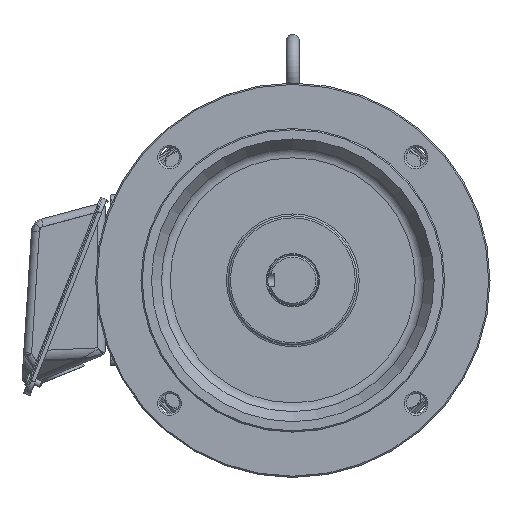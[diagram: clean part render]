
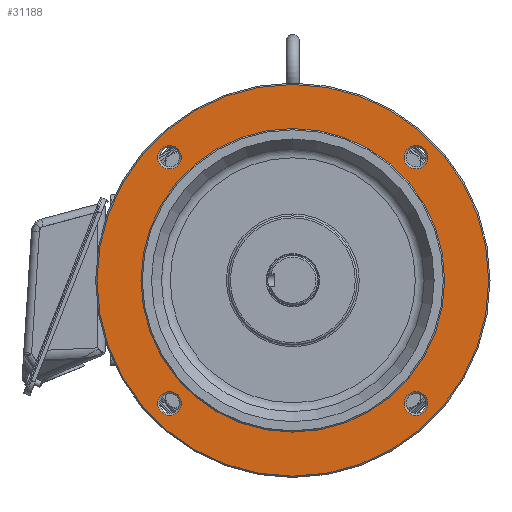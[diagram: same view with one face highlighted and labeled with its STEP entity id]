
A CAD part, front view. The second image highlights one B-rep face of the part: STEP entity #31188.
In plain terms, the highlighted planar face has unit normal (0, -1, 0).
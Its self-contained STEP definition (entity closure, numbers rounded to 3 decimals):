
#7719=ORIENTED_EDGE('',*,*,#14572,.T.);
#7720=ORIENTED_EDGE('',*,*,#14573,.T.);
#7721=ORIENTED_EDGE('',*,*,#14574,.T.);
#7722=ORIENTED_EDGE('',*,*,#14575,.T.);
#7723=ORIENTED_EDGE('',*,*,#14576,.T.);
#7724=ORIENTED_EDGE('',*,*,#14351,.F.);
#14351=EDGE_CURVE('',#18023,#18023,#20270,.T.);
#14572=EDGE_CURVE('',#18185,#18185,#20387,.F.);
#14573=EDGE_CURVE('',#18186,#18186,#20388,.T.);
#14574=EDGE_CURVE('',#18187,#18187,#20389,.T.);
#14575=EDGE_CURVE('',#18188,#18188,#20390,.T.);
#14576=EDGE_CURVE('',#18189,#18189,#20391,.T.);
#18023=VERTEX_POINT('',#51380);
#18185=VERTEX_POINT('',#52483);
#18186=VERTEX_POINT('',#52485);
#18187=VERTEX_POINT('',#52487);
#18188=VERTEX_POINT('',#52489);
#18189=VERTEX_POINT('',#52491);
#20270=CIRCLE('',#33341,115.5);
#20387=CIRCLE('',#33504,149.);
#20388=CIRCLE('',#33505,9.);
#20389=CIRCLE('',#33506,9.);
#20390=CIRCLE('',#33507,9.);
#20391=CIRCLE('',#33508,9.);
#22048=EDGE_LOOP('',(#7719));
#22049=EDGE_LOOP('',(#7720));
#22050=EDGE_LOOP('',(#7721));
#22051=EDGE_LOOP('',(#7722));
#22052=EDGE_LOOP('',(#7723));
#22053=EDGE_LOOP('',(#7724));
#24115=FACE_BOUND('',#22048,.T.);
#24116=FACE_BOUND('',#22049,.T.);
#24117=FACE_BOUND('',#22050,.T.);
#24118=FACE_BOUND('',#22051,.T.);
#24119=FACE_BOUND('',#22052,.T.);
#24120=FACE_BOUND('',#22053,.T.);
#25744=PLANE('',#33503);
#31188=ADVANCED_FACE('',(#24115,#24116,#24117,#24118,#24119,#24120),#25744,
 .F.);
#33341=AXIS2_PLACEMENT_3D('',#51379,#37762,#37763);
#33503=AXIS2_PLACEMENT_3D('',#52481,#38130,#38131);
#33504=AXIS2_PLACEMENT_3D('',#52482,#38132,#38133);
#33505=AXIS2_PLACEMENT_3D('',#52484,#38134,#38135);
#33506=AXIS2_PLACEMENT_3D('',#52486,#38136,#38137);
#33507=AXIS2_PLACEMENT_3D('',#52488,#38138,#38139);
#33508=AXIS2_PLACEMENT_3D('',#52490,#38140,#38141);
#37762=DIRECTION('',(0.,-1.,0.));
#37763=DIRECTION('',(0.,0.,-1.));
#38130=DIRECTION('',(0.,1.,0.));
#38131=DIRECTION('',(0.,0.,1.));
#38132=DIRECTION('',(0.,1.,0.));
#38133=DIRECTION('',(0.,0.,1.));
#38134=DIRECTION('',(0.,1.,0.));
#38135=DIRECTION('',(0.,0.,1.));
#38136=DIRECTION('',(0.,1.,0.));
#38137=DIRECTION('',(0.,0.,1.));
#38138=DIRECTION('',(0.,1.,0.));
#38139=DIRECTION('',(0.,0.,1.));
#38140=DIRECTION('',(0.,1.,0.));
#38141=DIRECTION('',(0.,0.,1.));
#51379=CARTESIAN_POINT('',(0.,4.,0.));
#51380=CARTESIAN_POINT('',(0.,4.,-115.5));
#52481=CARTESIAN_POINT('',(0.,4.,150.));
#52482=CARTESIAN_POINT('',(0.,4.,0.));
#52483=CARTESIAN_POINT('',(0.,4.,149.));
#52484=CARTESIAN_POINT('',(93.692,4.,-93.692));
#52485=CARTESIAN_POINT('',(93.692,4.,-84.692));
#52486=CARTESIAN_POINT('',(-93.692,4.,-93.692));
#52487=CARTESIAN_POINT('',(-93.692,4.,-84.692));
#52488=CARTESIAN_POINT('',(93.692,4.,93.692));
#52489=CARTESIAN_POINT('',(93.692,4.,102.692));
#52490=CARTESIAN_POINT('',(-93.692,4.,93.692));
#52491=CARTESIAN_POINT('',(-93.692,4.,102.692));
